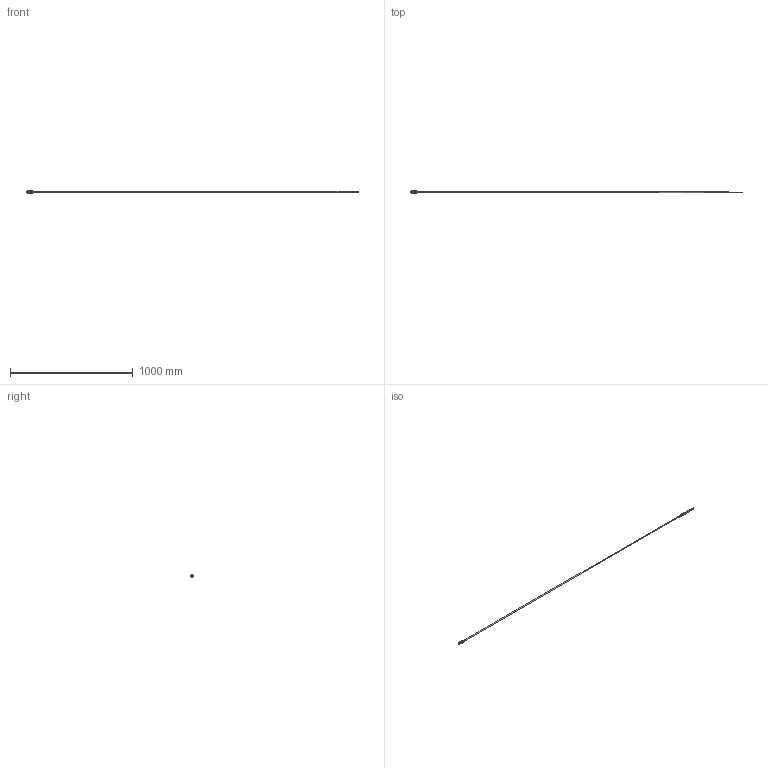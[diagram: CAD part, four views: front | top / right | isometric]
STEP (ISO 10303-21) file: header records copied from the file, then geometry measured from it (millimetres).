
FILE_DESCRIPTION (( 'STEP AP203' ), '1' );
FILE_NAME ('Model T - Assemblage.STEP', '2021-08-09T15:45:16', ( '' ), ( '' ), 'SwSTEP 2.0', 'SolidWorks 2016', '' );
FILE_SCHEMA (( 'CONFIG_CONTROL_DESIGN' ));
Length unit declared in the file: millimetre
Products named in the file (4): Model T; fgg_3b_809_clad823; Model T - Assemblage; emile_maurin_622082X6
Assembly tree (3 placements, depth 2):
  Model T - Assemblage
    fgg_3b_809_clad823
    Model T
    emile_maurin_622082X6
Bounding box: 2700.5 x 17.97 x 18 mm (x, y, z)
Volume: 149637.5 mm3; surface area: 73755.8 mm2
Topology: 4 solids, 4 shells, 507 faces, 1349 edges, 861 vertices
Faces by surface type: plane 298, cylinder 137, cone 61, bspline 5, torus 4, sphere 2
Full cylindrical faces by diameter (mm): 2.5 x1, 8.146 x1, 14.25 x1, 15 x2, 16.5 x2
Entity records: 16723 total; most frequent: CARTESIAN_POINT 4530, ORIENTED_EDGE 2644, DIRECTION 2202, EDGE_CURVE 1322, VERTEX_POINT 856, AXIS2_PLACEMENT_3D 851, EDGE_LOOP 540, FACE_OUTER_BOUND 517
